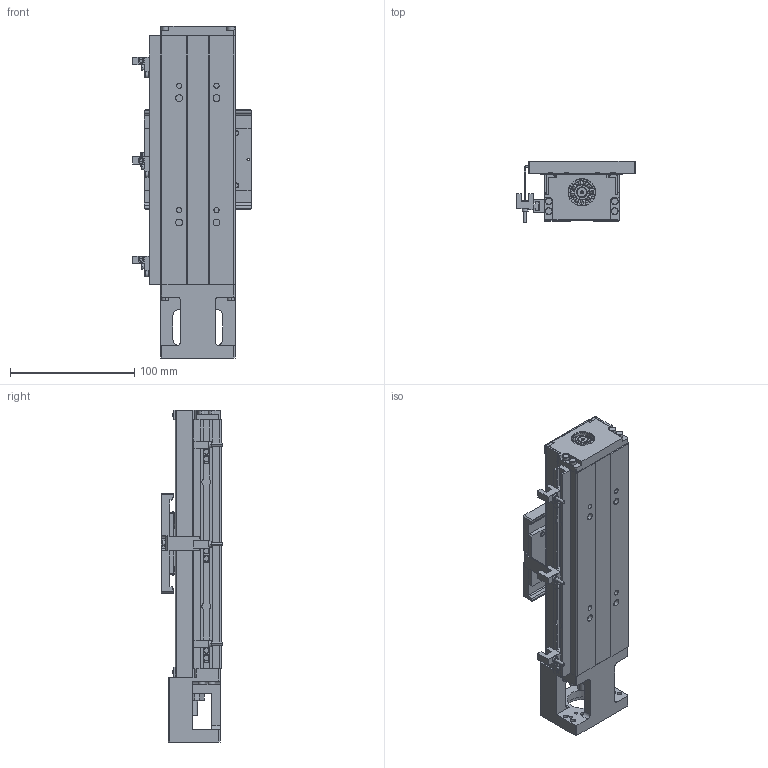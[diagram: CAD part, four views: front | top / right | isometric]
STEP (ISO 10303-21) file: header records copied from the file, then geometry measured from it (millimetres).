
FILE_DESCRIPTION (( 'STEP AP203' ), '1' );
FILE_NAME ('GKAC3360-100-12N-P10-CPXXX-網站用圖.STEP', '2023-04-17T07:43:49', ( '' ), ( '' ), 'SwSTEP 2.0', 'SolidWorks 2019', '' );
FILE_SCHEMA (( 'CONFIG_CONTROL_DESIGN' ));
Length unit declared in the file: millimetre
Products named in the file (3): Group2^GKAC3360-100-12N-P10-CPXXX_defeature-網站用_GMT; GKAC3360-100-12N-P10-CPXXX-網站用圖; Group1^GKAC3360-100-12N-P10-CPXXX_defeature-網站用_GMT
Assembly tree (2 placements, depth 2):
  GKAC3360-100-12N-P10-CPXXX-網站用圖
    Group1^GKAC3360-100-12N-P10-CPXXX_defeature-網站用_GMT
    Group2^GKAC3360-100-12N-P10-CPXXX_defeature-網站用_GMT
Bounding box: 95.4 x 49.1 x 267 mm (x, y, z)
Volume: 407011.3 mm3; surface area: 179796.7 mm2
Topology: 27 solids, 40 shells, 3003 faces, 7846 edges, 4915 vertices
Faces by surface type: plane 1309, cylinder 877, cone 375, torus 245, bspline 137, sphere 60
Entity records: 103278 total; most frequent: CARTESIAN_POINT 29572, ORIENTED_EDGE 15492, DIRECTION 15454, EDGE_CURVE 7746, AXIS2_PLACEMENT_3D 5752, VERTEX_POINT 4899, VECTOR 3950, LINE 3950
